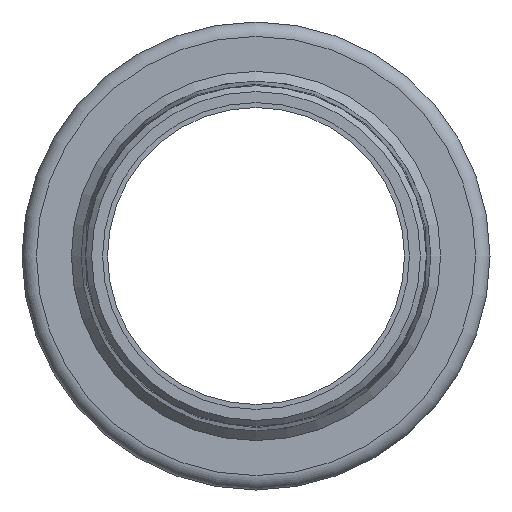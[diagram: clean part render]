
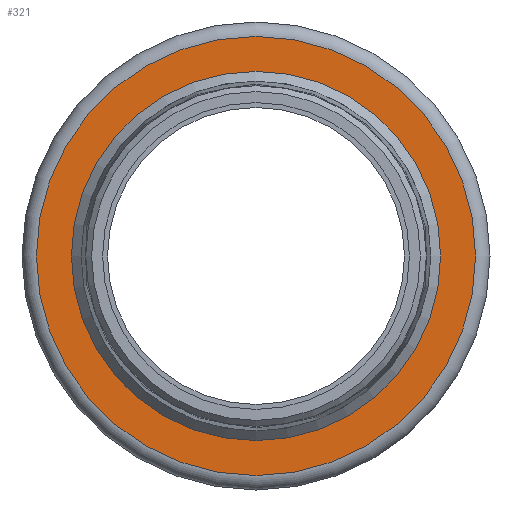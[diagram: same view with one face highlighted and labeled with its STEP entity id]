
A CAD part, front view. The second image highlights one B-rep face of the part: STEP entity #321.
In plain terms, the highlighted planar face has unit normal (0, -1, 0).
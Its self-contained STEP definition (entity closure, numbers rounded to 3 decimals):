
#82=ORIENTED_EDGE('',*,*,#103,.F.);
#83=ORIENTED_EDGE('',*,*,#109,.T.);
#103=EDGE_CURVE('',#124,#124,#145,.T.);
#109=EDGE_CURVE('',#130,#130,#151,.T.);
#124=VERTEX_POINT('',#516);
#130=VERTEX_POINT('',#532);
#145=CIRCLE('',#366,31.95);
#151=CIRCLE('',#376,38.);
#187=EDGE_LOOP('',(#82));
#188=EDGE_LOOP('',(#83));
#229=FACE_BOUND('',#187,.T.);
#230=FACE_BOUND('',#188,.T.);
#243=PLANE('',#377);
#321=ADVANCED_FACE('',(#229,#230),#243,.T.);
#366=AXIS2_PLACEMENT_3D('',#515,#438,#439);
#376=AXIS2_PLACEMENT_3D('',#531,#458,#459);
#377=AXIS2_PLACEMENT_3D('',#533,#460,#461);
#438=DIRECTION('',(0.,-1.,0.));
#439=DIRECTION('',(0.,0.,-1.));
#458=DIRECTION('',(0.,-1.,0.));
#459=DIRECTION('',(0.,0.,-1.));
#460=DIRECTION('',(0.,-1.,0.));
#461=DIRECTION('',(0.,0.,-1.));
#515=CARTESIAN_POINT('',(0.,0.,0.));
#516=CARTESIAN_POINT('',(0.,0.,-31.95));
#531=CARTESIAN_POINT('',(0.,0.,0.));
#532=CARTESIAN_POINT('',(0.,0.,-38.));
#533=CARTESIAN_POINT('',(0.,0.,30.15));
